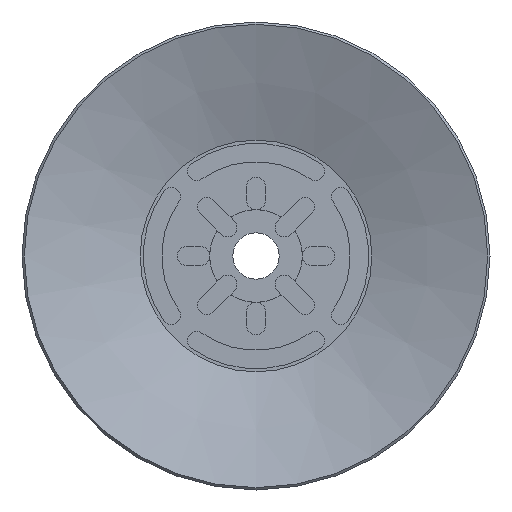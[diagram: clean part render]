
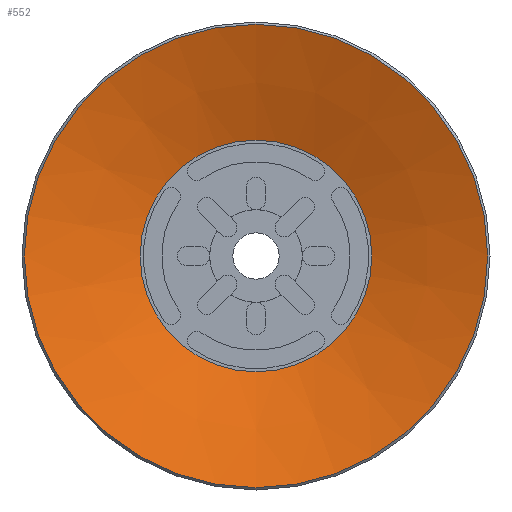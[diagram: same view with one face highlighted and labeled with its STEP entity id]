
A CAD part, front view. The second image highlights one B-rep face of the part: STEP entity #552.
In plain terms, the highlighted conical face has half-angle 70.201 degrees and reference radius 7.5 mm.
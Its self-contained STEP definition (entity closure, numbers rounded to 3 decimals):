
#552=ADVANCED_FACE('',(#865,#866),#867,.F.);
#865=FACE_BOUND('',#1297,.T.);
#866=FACE_OUTER_BOUND('',#1298,.T.);
#867=CONICAL_SURFACE('',#1299,7.5,1.225);
#1297=EDGE_LOOP('',(#2194));
#1298=EDGE_LOOP('',(#2195));
#1299=AXIS2_PLACEMENT_3D('',#2196,#2197,#2198);
#2194=ORIENTED_EDGE('',*,*,#3099,.F.);
#2195=ORIENTED_EDGE('',*,*,#3100,.T.);
#2196=CARTESIAN_POINT('',(0.0,0.0,2.7));
#2197=DIRECTION('',(0.0,0.,-1.0));
#2198=DIRECTION('',(0.0,1.0,0.));
#3099=EDGE_CURVE('',#3657,#3657,#3658,.T.);
#3100=EDGE_CURVE('',#3659,#3659,#3660,.T.);
#3657=VERTEX_POINT('',#4766);
#3658=CIRCLE('',#4767,7.5);
#3659=VERTEX_POINT('',#4768);
#3660=CIRCLE('',#4769,15.0);
#4766=CARTESIAN_POINT('',(0.0,7.5,2.7));
#4767=AXIS2_PLACEMENT_3D('',#5522,#5523,#5524);
#4768=CARTESIAN_POINT('',(0.0,15.0,0.));
#4769=AXIS2_PLACEMENT_3D('',#5525,#5526,#5527);
#5522=CARTESIAN_POINT('',(0.0,0.0,2.7));
#5523=DIRECTION('',(0.0,0.,-1.0));
#5524=DIRECTION('',(0.0,1.0,0.));
#5525=CARTESIAN_POINT('',(0.0,0.0,0.0));
#5526=DIRECTION('',(0.0,0.,-1.0));
#5527=DIRECTION('',(0.0,1.0,0.));
